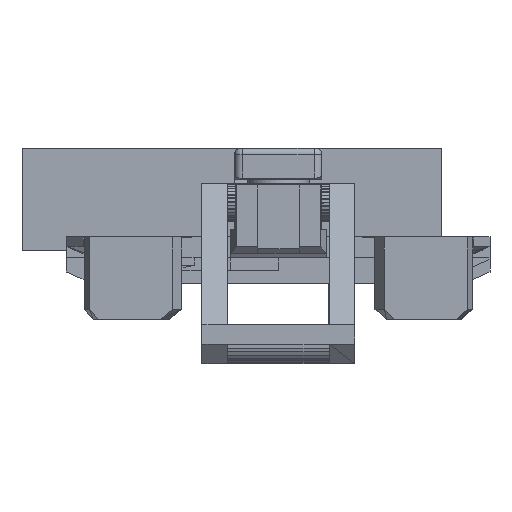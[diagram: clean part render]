
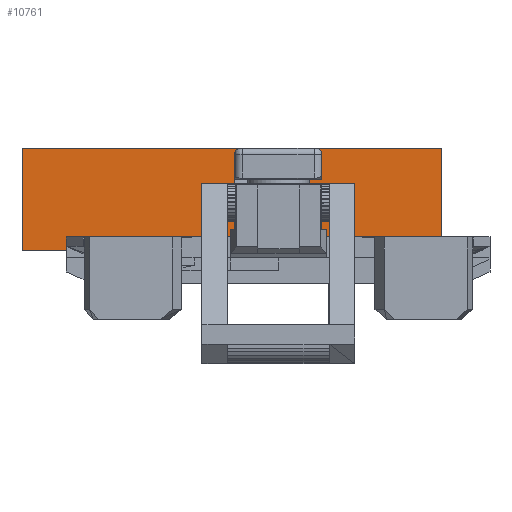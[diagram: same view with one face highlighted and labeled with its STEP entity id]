
A CAD part, left-side view. The second image highlights one B-rep face of the part: STEP entity #10761.
In plain terms, the highlighted planar face has unit normal (-1, 0, 0).
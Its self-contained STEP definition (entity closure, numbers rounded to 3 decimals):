
#58 = PLANE('',#59);
#59 = AXIS2_PLACEMENT_3D('',#60,#61,#62);
#60 = CARTESIAN_POINT('',(-40.,-25.,6.4));
#61 = DIRECTION('',(0.,0.,1.));
#62 = DIRECTION('',(1.,0.,-0.));
#1524 = PLANE('',#1525);
#1525 = AXIS2_PLACEMENT_3D('',#1526,#1527,#1528);
#1526 = CARTESIAN_POINT('',(9.042,16.475,5.37));
#1527 = DIRECTION('',(0.,1.,0.));
#1528 = DIRECTION('',(1.,0.,0.));
#1677 = VERTEX_POINT('',#1678);
#1678 = CARTESIAN_POINT('',(-8.758,-12.666,6.4));
#1692 = PLANE('',#1693);
#1693 = AXIS2_PLACEMENT_3D('',#1694,#1695,#1696);
#1694 = CARTESIAN_POINT('',(-8.758,-12.666,5.35));
#1695 = DIRECTION('',(-0.,1.,0.));
#1696 = DIRECTION('',(0.,0.,1.));
#1704 = EDGE_CURVE('',#1677,#1705,#1707,.T.);
#1705 = VERTEX_POINT('',#1706);
#1706 = CARTESIAN_POINT('',(-8.758,16.475,6.4));
#1707 = SURFACE_CURVE('',#1708,(#1712,#1719),.PCURVE_S1.);
#1708 = LINE('',#1709,#1710);
#1709 = CARTESIAN_POINT('',(-8.758,-12.666,6.4));
#1710 = VECTOR('',#1711,1.);
#1711 = DIRECTION('',(0.,1.,0.));
#1712 = PCURVE('',#58,#1713);
#1713 = DEFINITIONAL_REPRESENTATION('',(#1714),#1718);
#1714 = LINE('',#1715,#1716);
#1715 = CARTESIAN_POINT('',(31.242,12.334));
#1716 = VECTOR('',#1717,1.);
#1717 = DIRECTION('',(0.,1.));
#1718 = ( GEOMETRIC_REPRESENTATION_CONTEXT(2) 
PARAMETRIC_REPRESENTATION_CONTEXT() REPRESENTATION_CONTEXT('2D SPACE',''
  ) );
#1719 = PCURVE('',#1720,#1725);
#1720 = PLANE('',#1721);
#1721 = AXIS2_PLACEMENT_3D('',#1722,#1723,#1724);
#1722 = CARTESIAN_POINT('',(-8.758,-12.666,5.35));
#1723 = DIRECTION('',(1.,0.,-0.));
#1724 = DIRECTION('',(0.,0.,1.));
#1725 = DEFINITIONAL_REPRESENTATION('',(#1726),#1730);
#1726 = LINE('',#1727,#1728);
#1727 = CARTESIAN_POINT('',(1.05,0.));
#1728 = VECTOR('',#1729,1.);
#1729 = DIRECTION('',(0.,-1.));
#1730 = ( GEOMETRIC_REPRESENTATION_CONTEXT(2) 
PARAMETRIC_REPRESENTATION_CONTEXT() REPRESENTATION_CONTEXT('2D SPACE',''
  ) );
#9906 = EDGE_CURVE('',#1705,#9907,#9909,.T.);
#9907 = VERTEX_POINT('',#9908);
#9908 = CARTESIAN_POINT('',(-8.758,16.475,5.35));
#9909 = SURFACE_CURVE('',#9910,(#9914,#9921),.PCURVE_S1.);
#9910 = LINE('',#9911,#9912);
#9911 = CARTESIAN_POINT('',(-8.758,16.475,6.4));
#9912 = VECTOR('',#9913,1.);
#9913 = DIRECTION('',(0.,0.,-1.));
#9914 = PCURVE('',#1524,#9915);
#9915 = DEFINITIONAL_REPRESENTATION('',(#9916),#9920);
#9916 = LINE('',#9917,#9918);
#9917 = CARTESIAN_POINT('',(-17.8,-1.03));
#9918 = VECTOR('',#9919,1.);
#9919 = DIRECTION('',(0.,1.));
#9920 = ( GEOMETRIC_REPRESENTATION_CONTEXT(2) 
PARAMETRIC_REPRESENTATION_CONTEXT() REPRESENTATION_CONTEXT('2D SPACE',''
  ) );
#9921 = PCURVE('',#1720,#9922);
#9922 = DEFINITIONAL_REPRESENTATION('',(#9923),#9927);
#9923 = LINE('',#9924,#9925);
#9924 = CARTESIAN_POINT('',(1.05,-29.141));
#9925 = VECTOR('',#9926,1.);
#9926 = DIRECTION('',(-1.,0.));
#9927 = ( GEOMETRIC_REPRESENTATION_CONTEXT(2) 
PARAMETRIC_REPRESENTATION_CONTEXT() REPRESENTATION_CONTEXT('2D SPACE',''
  ) );
#9945 = PLANE('',#9946);
#9946 = AXIS2_PLACEMENT_3D('',#9947,#9948,#9949);
#9947 = CARTESIAN_POINT('',(-8.758,-12.666,5.35));
#9948 = DIRECTION('',(0.,0.,1.));
#9949 = DIRECTION('',(1.,0.,-0.));
#10666 = EDGE_CURVE('',#1677,#10667,#10669,.T.);
#10667 = VERTEX_POINT('',#10668);
#10668 = CARTESIAN_POINT('',(-8.758,-12.666,13.3));
#10669 = SURFACE_CURVE('',#10670,(#10674,#10681),.PCURVE_S1.);
#10670 = LINE('',#10671,#10672);
#10671 = CARTESIAN_POINT('',(-8.758,-12.666,5.4));
#10672 = VECTOR('',#10673,1.);
#10673 = DIRECTION('',(0.,0.,1.));
#10674 = PCURVE('',#1692,#10675);
#10675 = DEFINITIONAL_REPRESENTATION('',(#10676),#10680);
#10676 = LINE('',#10677,#10678);
#10677 = CARTESIAN_POINT('',(0.05,0.));
#10678 = VECTOR('',#10679,1.);
#10679 = DIRECTION('',(1.,0.));
#10680 = ( GEOMETRIC_REPRESENTATION_CONTEXT(2) 
PARAMETRIC_REPRESENTATION_CONTEXT() REPRESENTATION_CONTEXT('2D SPACE',''
  ) );
#10681 = PCURVE('',#1720,#10682);
#10682 = DEFINITIONAL_REPRESENTATION('',(#10683),#10687);
#10683 = LINE('',#10684,#10685);
#10684 = CARTESIAN_POINT('',(0.05,0.));
#10685 = VECTOR('',#10686,1.);
#10686 = DIRECTION('',(1.,0.));
#10687 = ( GEOMETRIC_REPRESENTATION_CONTEXT(2) 
PARAMETRIC_REPRESENTATION_CONTEXT() REPRESENTATION_CONTEXT('2D SPACE',''
  ) );
#10705 = PLANE('',#10706);
#10706 = AXIS2_PLACEMENT_3D('',#10707,#10708,#10709);
#10707 = CARTESIAN_POINT('',(-8.758,-12.666,13.3));
#10708 = DIRECTION('',(0.,0.,1.));
#10709 = DIRECTION('',(1.,0.,-0.));
#10761 = ADVANCED_FACE('',(#10762),#1720,.F.);
#10762 = FACE_BOUND('',#10763,.F.);
#10763 = EDGE_LOOP('',(#10764,#10765,#10766,#10767,#10790,#10818));
#10764 = ORIENTED_EDGE('',*,*,#10666,.F.);
#10765 = ORIENTED_EDGE('',*,*,#1704,.T.);
#10766 = ORIENTED_EDGE('',*,*,#9906,.T.);
#10767 = ORIENTED_EDGE('',*,*,#10768,.F.);
#10768 = EDGE_CURVE('',#10769,#9907,#10771,.T.);
#10769 = VERTEX_POINT('',#10770);
#10770 = CARTESIAN_POINT('',(-8.758,19.934,5.35));
#10771 = SURFACE_CURVE('',#10772,(#10776,#10783),.PCURVE_S1.);
#10772 = LINE('',#10773,#10774);
#10773 = CARTESIAN_POINT('',(-8.758,19.934,5.35));
#10774 = VECTOR('',#10775,1.);
#10775 = DIRECTION('',(0.,-1.,0.));
#10776 = PCURVE('',#1720,#10777);
#10777 = DEFINITIONAL_REPRESENTATION('',(#10778),#10782);
#10778 = LINE('',#10779,#10780);
#10779 = CARTESIAN_POINT('',(0.,-32.6));
#10780 = VECTOR('',#10781,1.);
#10781 = DIRECTION('',(0.,1.));
#10782 = ( GEOMETRIC_REPRESENTATION_CONTEXT(2) 
PARAMETRIC_REPRESENTATION_CONTEXT() REPRESENTATION_CONTEXT('2D SPACE',''
  ) );
#10783 = PCURVE('',#9945,#10784);
#10784 = DEFINITIONAL_REPRESENTATION('',(#10785),#10789);
#10785 = LINE('',#10786,#10787);
#10786 = CARTESIAN_POINT('',(0.,32.6));
#10787 = VECTOR('',#10788,1.);
#10788 = DIRECTION('',(0.,-1.));
#10789 = ( GEOMETRIC_REPRESENTATION_CONTEXT(2) 
PARAMETRIC_REPRESENTATION_CONTEXT() REPRESENTATION_CONTEXT('2D SPACE',''
  ) );
#10790 = ORIENTED_EDGE('',*,*,#10791,.F.);
#10791 = EDGE_CURVE('',#10792,#10769,#10794,.T.);
#10792 = VERTEX_POINT('',#10793);
#10793 = CARTESIAN_POINT('',(-8.758,19.934,13.3));
#10794 = SURFACE_CURVE('',#10795,(#10799,#10806),.PCURVE_S1.);
#10795 = LINE('',#10796,#10797);
#10796 = CARTESIAN_POINT('',(-8.758,19.934,13.3));
#10797 = VECTOR('',#10798,1.);
#10798 = DIRECTION('',(0.,0.,-1.));
#10799 = PCURVE('',#1720,#10800);
#10800 = DEFINITIONAL_REPRESENTATION('',(#10801),#10805);
#10801 = LINE('',#10802,#10803);
#10802 = CARTESIAN_POINT('',(7.95,-32.6));
#10803 = VECTOR('',#10804,1.);
#10804 = DIRECTION('',(-1.,0.));
#10805 = ( GEOMETRIC_REPRESENTATION_CONTEXT(2) 
PARAMETRIC_REPRESENTATION_CONTEXT() REPRESENTATION_CONTEXT('2D SPACE',''
  ) );
#10806 = PCURVE('',#10807,#10812);
#10807 = PLANE('',#10808);
#10808 = AXIS2_PLACEMENT_3D('',#10809,#10810,#10811);
#10809 = CARTESIAN_POINT('',(-8.758,19.934,5.35));
#10810 = DIRECTION('',(-0.,1.,0.));
#10811 = DIRECTION('',(0.,0.,1.));
#10812 = DEFINITIONAL_REPRESENTATION('',(#10813),#10817);
#10813 = LINE('',#10814,#10815);
#10814 = CARTESIAN_POINT('',(7.95,0.));
#10815 = VECTOR('',#10816,1.);
#10816 = DIRECTION('',(-1.,0.));
#10817 = ( GEOMETRIC_REPRESENTATION_CONTEXT(2) 
PARAMETRIC_REPRESENTATION_CONTEXT() REPRESENTATION_CONTEXT('2D SPACE',''
  ) );
#10818 = ORIENTED_EDGE('',*,*,#10819,.F.);
#10819 = EDGE_CURVE('',#10667,#10792,#10820,.T.);
#10820 = SURFACE_CURVE('',#10821,(#10825,#10832),.PCURVE_S1.);
#10821 = LINE('',#10822,#10823);
#10822 = CARTESIAN_POINT('',(-8.758,-12.666,13.3));
#10823 = VECTOR('',#10824,1.);
#10824 = DIRECTION('',(-0.,1.,0.));
#10825 = PCURVE('',#1720,#10826);
#10826 = DEFINITIONAL_REPRESENTATION('',(#10827),#10831);
#10827 = LINE('',#10828,#10829);
#10828 = CARTESIAN_POINT('',(7.95,0.));
#10829 = VECTOR('',#10830,1.);
#10830 = DIRECTION('',(0.,-1.));
#10831 = ( GEOMETRIC_REPRESENTATION_CONTEXT(2) 
PARAMETRIC_REPRESENTATION_CONTEXT() REPRESENTATION_CONTEXT('2D SPACE',''
  ) );
#10832 = PCURVE('',#10705,#10833);
#10833 = DEFINITIONAL_REPRESENTATION('',(#10834),#10838);
#10834 = LINE('',#10835,#10836);
#10835 = CARTESIAN_POINT('',(0.,0.));
#10836 = VECTOR('',#10837,1.);
#10837 = DIRECTION('',(0.,1.));
#10838 = ( GEOMETRIC_REPRESENTATION_CONTEXT(2) 
PARAMETRIC_REPRESENTATION_CONTEXT() REPRESENTATION_CONTEXT('2D SPACE',''
  ) );
